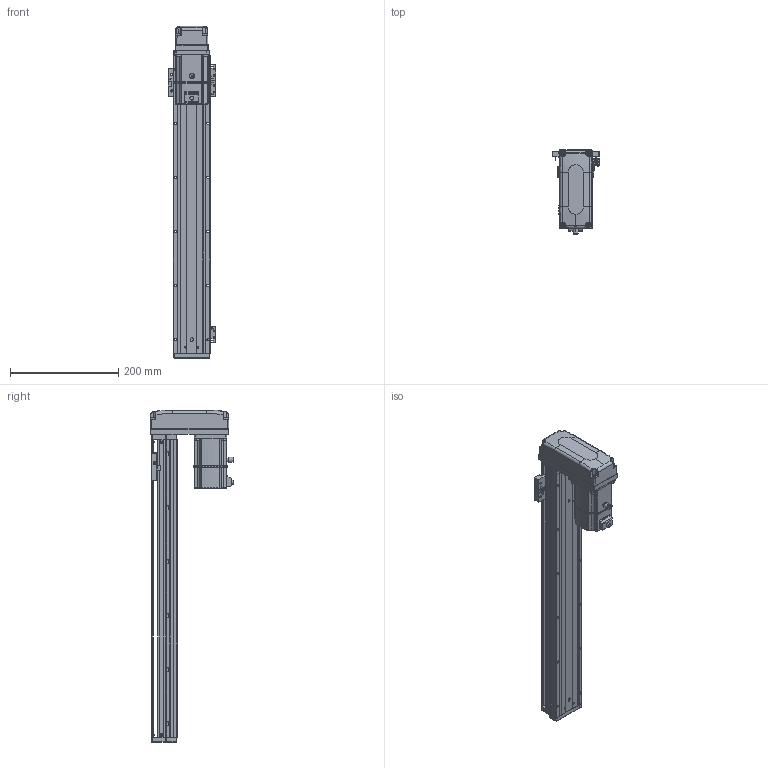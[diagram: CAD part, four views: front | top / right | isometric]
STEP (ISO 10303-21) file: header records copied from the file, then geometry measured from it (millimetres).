
FILE_DESCRIPTION (( 'STEP AP203' ), '1' );
FILE_NAME ('KTHA60-450-BM-M20-C4L.step', '2022-12-16T01:35:27', ( '微软用户' ), ( '微软中国' ), 'SwSTEP 2.0', 'SolidWorks 2020', '' );
FILE_SCHEMA (( 'CONFIG_CONTROL_DESIGN' ));
Length unit declared in the file: millimetre
Products named in the file (17): KTHA60-001_550; CTHA60-021; CTHA60-006-2_CTHA60-006-2; KTHA60-004; GBT 70.1-M4×16; _X2_4E0983F1_X0_200W_1; KTHA60-005; GBT77-2000M3-3; KTHA60-450-BM-M20-C4L; GB¨uT 70.2-M3¡Á5_M3¡Á6; GBT 70.1-M3℅6; GBT 70.3-M3℅6; CTHA60-016; EE_SX911P_R; KTHA60-002; CTHA60-017; BTH80-026
Assembly tree (51 placements, depth 2):
  KTHA60-450-BM-M20-C4L
    KTHA60-001_550
    KTHA60-004
    KTHA60-005
    GB¨uT 70.2-M3¡Á5_M3¡Á6  x6
    GBT 70.3-M3℅6  x4
    EE_SX911P_R  x3
    CTHA60-017  x3
    CTHA60-021  x2
    GBT 70.1-M4×16  x8
    GBT77-2000M3-3  x6
    GBT 70.1-M3℅6  x10
    CTHA60-016  x2
    KTHA60-002
    BTH80-026
    CTHA60-006-2_CTHA60-006-2
    _X2_4E0983F1_X0_200W_1
Bounding box: 87.72 x 155.2 x 614 mm (x, y, z)
Volume: 1401564.2 mm3; surface area: 370414.4 mm2
Topology: 54 solids, 54 shells, 2428 faces, 5773 edges, 3550 vertices
Faces by surface type: plane 1285, cylinder 644, cone 282, bspline 109, torus 92, sphere 16
Entity records: 44886 total; most frequent: CARTESIAN_POINT 10482, ORIENTED_EDGE 6594, DIRECTION 6588, EDGE_CURVE 3297, AXIS2_PLACEMENT_3D 2275, VERTEX_POINT 2059, VECTOR 2038, LINE 2038
